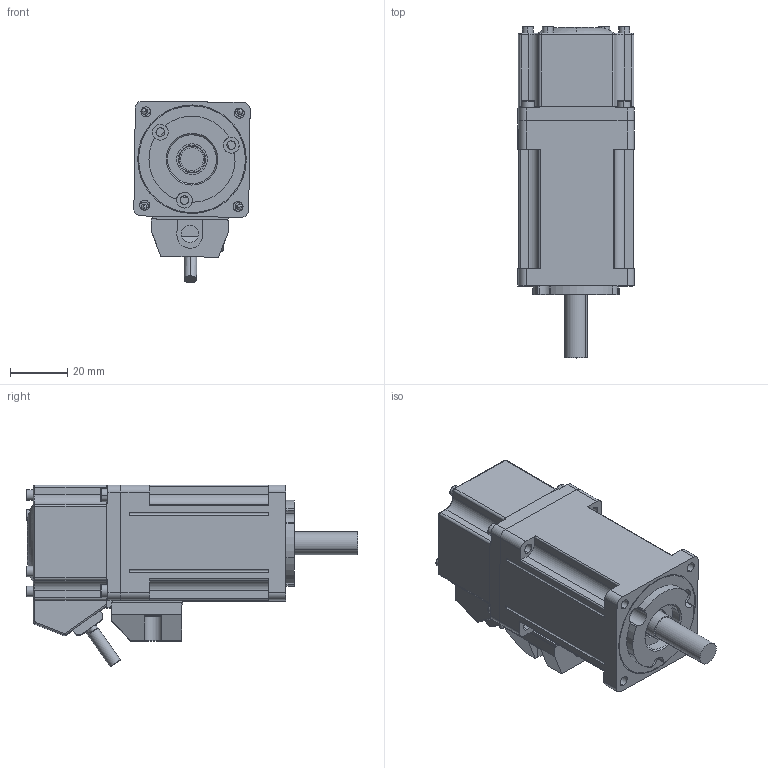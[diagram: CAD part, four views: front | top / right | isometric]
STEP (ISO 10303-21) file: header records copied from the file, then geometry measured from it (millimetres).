
FILE_DESCRIPTION (( 'STEP AP203' ), '1' );
FILE_NAME ('40ST-M00330.STEP', '2020-06-02T06:45:35', ( 'zengjxin' ), ( 'Microsoft' ), 'SwSTEP 2.0', 'SolidWorks 2016', '' );
FILE_SCHEMA (( 'CONFIG_CONTROL_DESIGN' ));
Length unit declared in the file: millimetre
Products named in the file (1): 40ST-M00330
Bounding box: 40.49 x 115.6 x 63.33 mm (x, y, z)
Surface area: 26229.2 mm2 (no closed solid volume)
Topology: 0 solids, 17 shells, 378 faces, 1112 edges, 752 vertices
Faces by surface type: plane 180, cylinder 150, torus 38, cone 10
Entity records: 12703 total; most frequent: DIRECTION 2297, CARTESIAN_POINT 2292, ORIENTED_EDGE 1945, EDGE_CURVE 1104, AXIS2_PLACEMENT_3D 833, VERTEX_POINT 752, VECTOR 631, LINE 631
